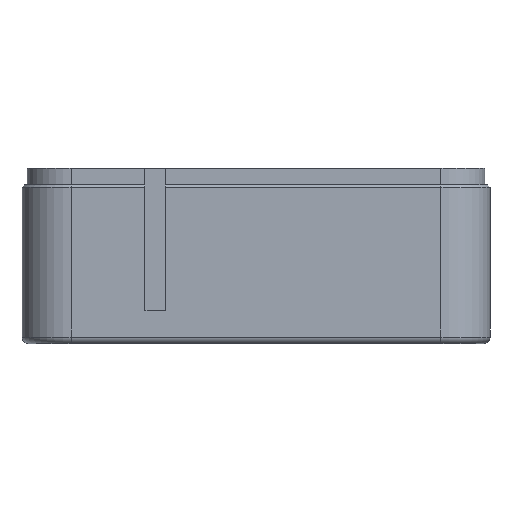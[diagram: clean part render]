
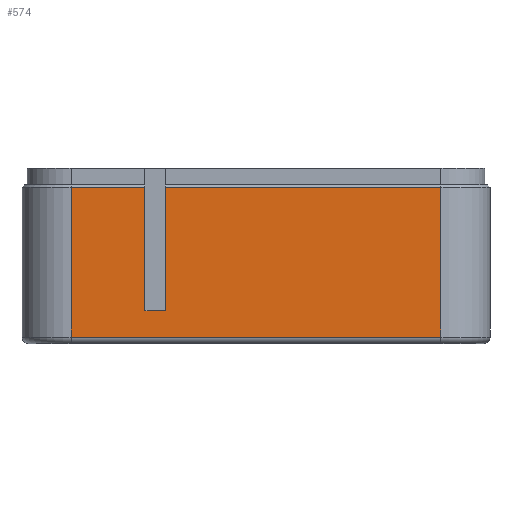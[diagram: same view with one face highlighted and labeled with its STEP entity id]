
A CAD part, front view. The second image highlights one B-rep face of the part: STEP entity #574.
In plain terms, the highlighted planar face has unit normal (0, -1, 0).
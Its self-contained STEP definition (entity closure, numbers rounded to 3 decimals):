
#44 = CYLINDRICAL_SURFACE('',#45,12.);
#45 = AXIS2_PLACEMENT_3D('',#46,#47,#48);
#46 = CARTESIAN_POINT('',(-9.94,-13.4,0.));
#47 = DIRECTION('',(0.,0.,1.));
#48 = DIRECTION('',(-1.,-0.,0.));
#143 = VERTEX_POINT('',#144);
#144 = CARTESIAN_POINT('',(-9.94,-25.4,1.6));
#171 = EDGE_CURVE('',#143,#172,#174,.T.);
#172 = VERTEX_POINT('',#173);
#173 = CARTESIAN_POINT('',(-9.94,-25.4,38.2));
#174 = SURFACE_CURVE('',#175,(#179,#186),.PCURVE_S1.);
#175 = LINE('',#176,#177);
#176 = CARTESIAN_POINT('',(-9.94,-25.4,0.));
#177 = VECTOR('',#178,1.);
#178 = DIRECTION('',(0.,0.,1.));
#179 = PCURVE('',#44,#180);
#180 = DEFINITIONAL_REPRESENTATION('',(#181),#185);
#181 = LINE('',#182,#183);
#182 = CARTESIAN_POINT('',(1.571,0.));
#183 = VECTOR('',#184,1.);
#184 = DIRECTION('',(0.,1.));
#185 = ( GEOMETRIC_REPRESENTATION_CONTEXT(2) 
PARAMETRIC_REPRESENTATION_CONTEXT() REPRESENTATION_CONTEXT('2D SPACE',''
  ) );
#186 = PCURVE('',#187,#192);
#187 = PLANE('',#188);
#188 = AXIS2_PLACEMENT_3D('',#189,#190,#191);
#189 = CARTESIAN_POINT('',(-21.94,-25.4,0.));
#190 = DIRECTION('',(0.,1.,0.));
#191 = DIRECTION('',(0.,0.,1.));
#192 = DEFINITIONAL_REPRESENTATION('',(#193),#197);
#193 = LINE('',#194,#195);
#194 = CARTESIAN_POINT('',(0.,12.));
#195 = VECTOR('',#196,1.);
#196 = DIRECTION('',(1.,0.));
#197 = ( GEOMETRIC_REPRESENTATION_CONTEXT(2) 
PARAMETRIC_REPRESENTATION_CONTEXT() REPRESENTATION_CONTEXT('2D SPACE',''
  ) );
#479 = CYLINDRICAL_SURFACE('',#480,1.6);
#480 = AXIS2_PLACEMENT_3D('',#481,#482,#483);
#481 = CARTESIAN_POINT('',(80.4,-23.8,1.6));
#482 = DIRECTION('',(-1.,-0.,-0.));
#483 = DIRECTION('',(0.,-1.,0.));
#536 = PLANE('',#537);
#537 = AXIS2_PLACEMENT_3D('',#538,#539,#540);
#538 = CARTESIAN_POINT('',(80.4,-25.1,38.5));
#539 = DIRECTION('',(0.,0.707,-0.707)
  );
#540 = DIRECTION('',(-1.,0.,0.));
#574 = ADVANCED_FACE('',(#575),#187,.F.);
#575 = FACE_BOUND('',#576,.F.);
#576 = EDGE_LOOP('',(#577,#600,#601,#624,#650,#676,#702,#730));
#577 = ORIENTED_EDGE('',*,*,#578,.T.);
#578 = EDGE_CURVE('',#579,#143,#581,.T.);
#579 = VERTEX_POINT('',#580);
#580 = CARTESIAN_POINT('',(80.4,-25.4,1.6));
#581 = SURFACE_CURVE('',#582,(#586,#593),.PCURVE_S1.);
#582 = LINE('',#583,#584);
#583 = CARTESIAN_POINT('',(80.4,-25.4,1.6));
#584 = VECTOR('',#585,1.);
#585 = DIRECTION('',(-1.,-0.,-0.));
#586 = PCURVE('',#187,#587);
#587 = DEFINITIONAL_REPRESENTATION('',(#588),#592);
#588 = LINE('',#589,#590);
#589 = CARTESIAN_POINT('',(1.6,102.34));
#590 = VECTOR('',#591,1.);
#591 = DIRECTION('',(-0.,-1.));
#592 = ( GEOMETRIC_REPRESENTATION_CONTEXT(2) 
PARAMETRIC_REPRESENTATION_CONTEXT() REPRESENTATION_CONTEXT('2D SPACE',''
  ) );
#593 = PCURVE('',#479,#594);
#594 = DEFINITIONAL_REPRESENTATION('',(#595),#599);
#595 = LINE('',#596,#597);
#596 = CARTESIAN_POINT('',(-0.,0.));
#597 = VECTOR('',#598,1.);
#598 = DIRECTION('',(-0.,1.));
#599 = ( GEOMETRIC_REPRESENTATION_CONTEXT(2) 
PARAMETRIC_REPRESENTATION_CONTEXT() REPRESENTATION_CONTEXT('2D SPACE',''
  ) );
#600 = ORIENTED_EDGE('',*,*,#171,.T.);
#601 = ORIENTED_EDGE('',*,*,#602,.F.);
#602 = EDGE_CURVE('',#603,#172,#605,.T.);
#603 = VERTEX_POINT('',#604);
#604 = CARTESIAN_POINT('',(8.1,-25.4,38.2));
#605 = SURFACE_CURVE('',#606,(#610,#617),.PCURVE_S1.);
#606 = LINE('',#607,#608);
#607 = CARTESIAN_POINT('',(80.4,-25.4,38.2));
#608 = VECTOR('',#609,1.);
#609 = DIRECTION('',(-1.,-0.,-0.));
#610 = PCURVE('',#187,#611);
#611 = DEFINITIONAL_REPRESENTATION('',(#612),#616);
#612 = LINE('',#613,#614);
#613 = CARTESIAN_POINT('',(38.2,102.34));
#614 = VECTOR('',#615,1.);
#615 = DIRECTION('',(-0.,-1.));
#616 = ( GEOMETRIC_REPRESENTATION_CONTEXT(2) 
PARAMETRIC_REPRESENTATION_CONTEXT() REPRESENTATION_CONTEXT('2D SPACE',''
  ) );
#617 = PCURVE('',#536,#618);
#618 = DEFINITIONAL_REPRESENTATION('',(#619),#623);
#619 = LINE('',#620,#621);
#620 = CARTESIAN_POINT('',(0.,-0.424));
#621 = VECTOR('',#622,1.);
#622 = DIRECTION('',(1.,0.));
#623 = ( GEOMETRIC_REPRESENTATION_CONTEXT(2) 
PARAMETRIC_REPRESENTATION_CONTEXT() REPRESENTATION_CONTEXT('2D SPACE',''
  ) );
#624 = ORIENTED_EDGE('',*,*,#625,.T.);
#625 = EDGE_CURVE('',#603,#626,#628,.T.);
#626 = VERTEX_POINT('',#627);
#627 = CARTESIAN_POINT('',(8.1,-25.4,8.));
#628 = SURFACE_CURVE('',#629,(#633,#639),.PCURVE_S1.);
#629 = LINE('',#630,#631);
#630 = CARTESIAN_POINT('',(8.1,-25.4,4.));
#631 = VECTOR('',#632,1.);
#632 = DIRECTION('',(0.,0.,-1.));
#633 = PCURVE('',#187,#634);
#634 = DEFINITIONAL_REPRESENTATION('',(#635),#638);
#635 = B_SPLINE_CURVE_WITH_KNOTS('',1,(#636,#637),.UNSPECIFIED.,.F.,.F.,
  (2,2),(-34.2,-4.),.PIECEWISE_BEZIER_KNOTS.);
#636 = CARTESIAN_POINT('',(38.2,30.04));
#637 = CARTESIAN_POINT('',(8.,30.04));
#638 = ( GEOMETRIC_REPRESENTATION_CONTEXT(2) 
PARAMETRIC_REPRESENTATION_CONTEXT() REPRESENTATION_CONTEXT('2D SPACE',''
  ) );
#639 = PCURVE('',#640,#645);
#640 = PLANE('',#641);
#641 = AXIS2_PLACEMENT_3D('',#642,#643,#644);
#642 = CARTESIAN_POINT('',(8.1,-26.4,8.));
#643 = DIRECTION('',(1.,0.,0.));
#644 = DIRECTION('',(0.,0.,1.));
#645 = DEFINITIONAL_REPRESENTATION('',(#646),#649);
#646 = B_SPLINE_CURVE_WITH_KNOTS('',1,(#647,#648),.UNSPECIFIED.,.F.,.F.,
  (2,2),(-34.2,-4.),.PIECEWISE_BEZIER_KNOTS.);
#647 = CARTESIAN_POINT('',(30.2,-1.));
#648 = CARTESIAN_POINT('',(0.,-1.));
#649 = ( GEOMETRIC_REPRESENTATION_CONTEXT(2) 
PARAMETRIC_REPRESENTATION_CONTEXT() REPRESENTATION_CONTEXT('2D SPACE',''
  ) );
#650 = ORIENTED_EDGE('',*,*,#651,.T.);
#651 = EDGE_CURVE('',#626,#652,#654,.T.);
#652 = VERTEX_POINT('',#653);
#653 = CARTESIAN_POINT('',(13.1,-25.4,8.));
#654 = SURFACE_CURVE('',#655,(#659,#665),.PCURVE_S1.);
#655 = LINE('',#656,#657);
#656 = CARTESIAN_POINT('',(-6.92,-25.4,8.));
#657 = VECTOR('',#658,1.);
#658 = DIRECTION('',(1.,0.,0.));
#659 = PCURVE('',#187,#660);
#660 = DEFINITIONAL_REPRESENTATION('',(#661),#664);
#661 = B_SPLINE_CURVE_WITH_KNOTS('',1,(#662,#663),.UNSPECIFIED.,.F.,.F.,
  (2,2),(15.02,20.02),.PIECEWISE_BEZIER_KNOTS.);
#662 = CARTESIAN_POINT('',(8.,30.04));
#663 = CARTESIAN_POINT('',(8.,35.04));
#664 = ( GEOMETRIC_REPRESENTATION_CONTEXT(2) 
PARAMETRIC_REPRESENTATION_CONTEXT() REPRESENTATION_CONTEXT('2D SPACE',''
  ) );
#665 = PCURVE('',#666,#671);
#666 = PLANE('',#667);
#667 = AXIS2_PLACEMENT_3D('',#668,#669,#670);
#668 = CARTESIAN_POINT('',(8.1,-26.4,8.));
#669 = DIRECTION('',(0.,0.,1.));
#670 = DIRECTION('',(1.,0.,0.));
#671 = DEFINITIONAL_REPRESENTATION('',(#672),#675);
#672 = B_SPLINE_CURVE_WITH_KNOTS('',1,(#673,#674),.UNSPECIFIED.,.F.,.F.,
  (2,2),(15.02,20.02),.PIECEWISE_BEZIER_KNOTS.);
#673 = CARTESIAN_POINT('',(0.,1.));
#674 = CARTESIAN_POINT('',(5.,1.));
#675 = ( GEOMETRIC_REPRESENTATION_CONTEXT(2) 
PARAMETRIC_REPRESENTATION_CONTEXT() REPRESENTATION_CONTEXT('2D SPACE',''
  ) );
#676 = ORIENTED_EDGE('',*,*,#677,.F.);
#677 = EDGE_CURVE('',#678,#652,#680,.T.);
#678 = VERTEX_POINT('',#679);
#679 = CARTESIAN_POINT('',(13.1,-25.4,38.2));
#680 = SURFACE_CURVE('',#681,(#685,#691),.PCURVE_S1.);
#681 = LINE('',#682,#683);
#682 = CARTESIAN_POINT('',(13.1,-25.4,4.));
#683 = VECTOR('',#684,1.);
#684 = DIRECTION('',(0.,0.,-1.));
#685 = PCURVE('',#187,#686);
#686 = DEFINITIONAL_REPRESENTATION('',(#687),#690);
#687 = B_SPLINE_CURVE_WITH_KNOTS('',1,(#688,#689),.UNSPECIFIED.,.F.,.F.,
  (2,2),(-34.2,-4.),.PIECEWISE_BEZIER_KNOTS.);
#688 = CARTESIAN_POINT('',(38.2,35.04));
#689 = CARTESIAN_POINT('',(8.,35.04));
#690 = ( GEOMETRIC_REPRESENTATION_CONTEXT(2) 
PARAMETRIC_REPRESENTATION_CONTEXT() REPRESENTATION_CONTEXT('2D SPACE',''
  ) );
#691 = PCURVE('',#692,#697);
#692 = PLANE('',#693);
#693 = AXIS2_PLACEMENT_3D('',#694,#695,#696);
#694 = CARTESIAN_POINT('',(13.1,-26.4,8.));
#695 = DIRECTION('',(1.,0.,0.));
#696 = DIRECTION('',(0.,0.,1.));
#697 = DEFINITIONAL_REPRESENTATION('',(#698),#701);
#698 = B_SPLINE_CURVE_WITH_KNOTS('',1,(#699,#700),.UNSPECIFIED.,.F.,.F.,
  (2,2),(-34.2,-4.),.PIECEWISE_BEZIER_KNOTS.);
#699 = CARTESIAN_POINT('',(30.2,-1.));
#700 = CARTESIAN_POINT('',(0.,-1.));
#701 = ( GEOMETRIC_REPRESENTATION_CONTEXT(2) 
PARAMETRIC_REPRESENTATION_CONTEXT() REPRESENTATION_CONTEXT('2D SPACE',''
  ) );
#702 = ORIENTED_EDGE('',*,*,#703,.F.);
#703 = EDGE_CURVE('',#704,#678,#706,.T.);
#704 = VERTEX_POINT('',#705);
#705 = CARTESIAN_POINT('',(80.4,-25.4,38.2));
#706 = SURFACE_CURVE('',#707,(#711,#718),.PCURVE_S1.);
#707 = LINE('',#708,#709);
#708 = CARTESIAN_POINT('',(80.4,-25.4,38.2));
#709 = VECTOR('',#710,1.);
#710 = DIRECTION('',(-1.,-0.,-0.));
#711 = PCURVE('',#187,#712);
#712 = DEFINITIONAL_REPRESENTATION('',(#713),#717);
#713 = LINE('',#714,#715);
#714 = CARTESIAN_POINT('',(38.2,102.34));
#715 = VECTOR('',#716,1.);
#716 = DIRECTION('',(-0.,-1.));
#717 = ( GEOMETRIC_REPRESENTATION_CONTEXT(2) 
PARAMETRIC_REPRESENTATION_CONTEXT() REPRESENTATION_CONTEXT('2D SPACE',''
  ) );
#718 = PCURVE('',#719,#724);
#719 = PLANE('',#720);
#720 = AXIS2_PLACEMENT_3D('',#721,#722,#723);
#721 = CARTESIAN_POINT('',(80.4,-25.1,38.5));
#722 = DIRECTION('',(0.,0.707,-0.707)
  );
#723 = DIRECTION('',(-1.,0.,0.));
#724 = DEFINITIONAL_REPRESENTATION('',(#725),#729);
#725 = LINE('',#726,#727);
#726 = CARTESIAN_POINT('',(0.,-0.424));
#727 = VECTOR('',#728,1.);
#728 = DIRECTION('',(1.,0.));
#729 = ( GEOMETRIC_REPRESENTATION_CONTEXT(2) 
PARAMETRIC_REPRESENTATION_CONTEXT() REPRESENTATION_CONTEXT('2D SPACE',''
  ) );
#730 = ORIENTED_EDGE('',*,*,#731,.F.);
#731 = EDGE_CURVE('',#579,#704,#732,.T.);
#732 = SURFACE_CURVE('',#733,(#737,#744),.PCURVE_S1.);
#733 = LINE('',#734,#735);
#734 = CARTESIAN_POINT('',(80.4,-25.4,0.));
#735 = VECTOR('',#736,1.);
#736 = DIRECTION('',(0.,0.,1.));
#737 = PCURVE('',#187,#738);
#738 = DEFINITIONAL_REPRESENTATION('',(#739),#743);
#739 = LINE('',#740,#741);
#740 = CARTESIAN_POINT('',(0.,102.34));
#741 = VECTOR('',#742,1.);
#742 = DIRECTION('',(1.,0.));
#743 = ( GEOMETRIC_REPRESENTATION_CONTEXT(2) 
PARAMETRIC_REPRESENTATION_CONTEXT() REPRESENTATION_CONTEXT('2D SPACE',''
  ) );
#744 = PCURVE('',#745,#750);
#745 = CYLINDRICAL_SURFACE('',#746,12.);
#746 = AXIS2_PLACEMENT_3D('',#747,#748,#749);
#747 = CARTESIAN_POINT('',(80.4,-13.4,0.));
#748 = DIRECTION('',(0.,0.,1.));
#749 = DIRECTION('',(1.,0.,-0.));
#750 = DEFINITIONAL_REPRESENTATION('',(#751),#755);
#751 = LINE('',#752,#753);
#752 = CARTESIAN_POINT('',(-1.571,0.));
#753 = VECTOR('',#754,1.);
#754 = DIRECTION('',(-0.,1.));
#755 = ( GEOMETRIC_REPRESENTATION_CONTEXT(2) 
PARAMETRIC_REPRESENTATION_CONTEXT() REPRESENTATION_CONTEXT('2D SPACE',''
  ) );
